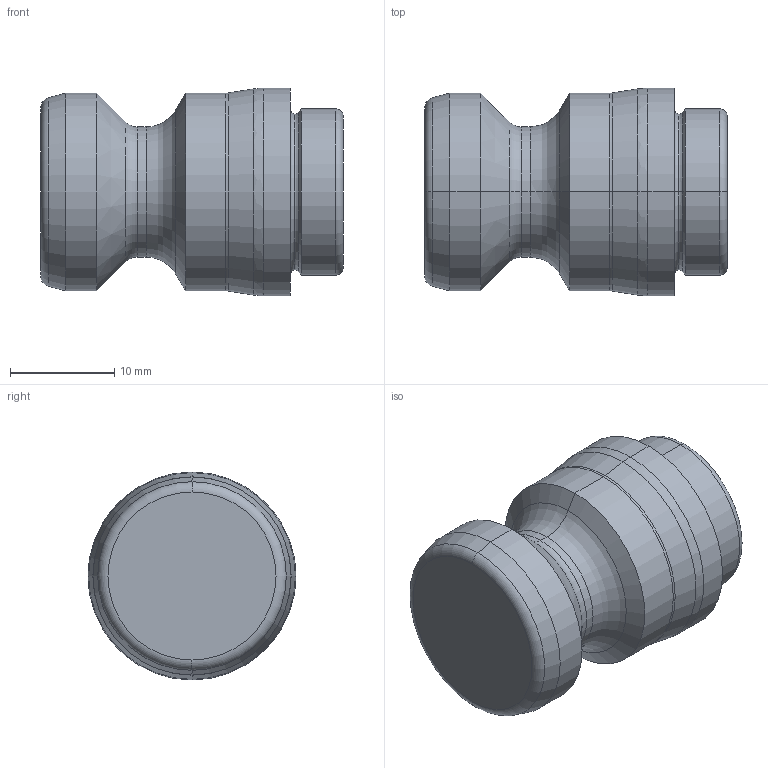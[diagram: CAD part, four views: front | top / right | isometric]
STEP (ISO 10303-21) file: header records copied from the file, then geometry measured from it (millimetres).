
FILE_DESCRIPTION (( 'STEP AP214' ), '1' );
FILE_NAME ('D_PS20F.STEP', '2020-03-11T17:08:16', ( '' ), ( '' ), 'SwSTEP 2.0', 'SolidWorks 2018', '' );
FILE_SCHEMA (( 'AUTOMOTIVE_DESIGN' ));
Length unit declared in the file: inch
Products named in the file (1): D_PS20F
Bounding box: 29.08 x 19.97 x 19.97 mm (x, y, z)
Volume: 6926.5 mm3; surface area: 2283.8 mm2
Topology: 1 solids, 1 shells, 39 faces, 76 edges, 40 vertices
Faces by surface type: torus 16, cone 10, cylinder 10, plane 3
Entity records: 1121 total; most frequent: DIRECTION 212, CARTESIAN_POINT 156, ORIENTED_EDGE 152, AXIS2_PLACEMENT_3D 96, EDGE_CURVE 76, CIRCLE 56, EDGE_LOOP 40, VERTEX_POINT 40
